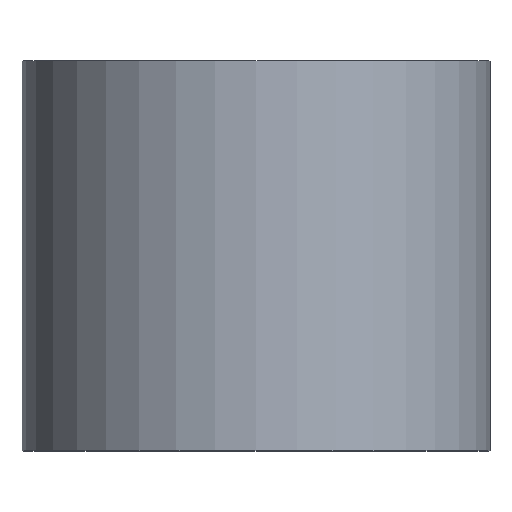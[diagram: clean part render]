
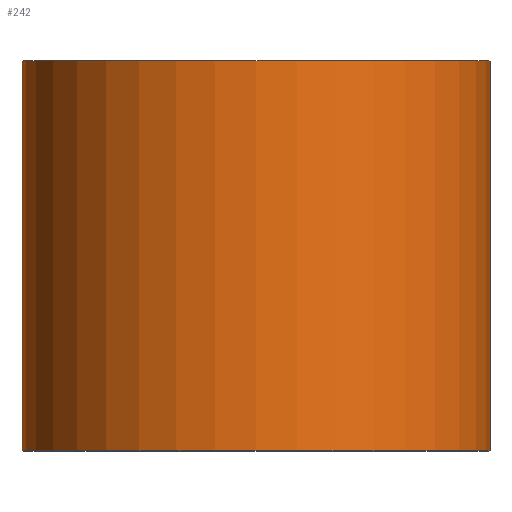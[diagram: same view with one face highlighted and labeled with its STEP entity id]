
A CAD part, top view. The second image highlights one B-rep face of the part: STEP entity #242.
In plain terms, the highlighted cylindrical face has radius 6 mm (diameter 12 mm), a partial arc.
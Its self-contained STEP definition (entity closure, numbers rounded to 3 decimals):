
#6 = EDGE_CURVE ( 'NONE', #262, #274, #54, .T. ) ;
#23 = DIRECTION ( 'NONE',  ( 0., 1., 0. ) ) ;
#40 = AXIS2_PLACEMENT_3D ( 'NONE', #100, #23, #57 ) ;
#49 = DIRECTION ( 'NONE',  ( -1., 0., 0. ) ) ;
#51 = CARTESIAN_POINT ( 'NONE',  ( 6., 0., 0. ) ) ;
#54 = LINE ( 'NONE', #228, #170 ) ;
#57 = DIRECTION ( 'NONE',  ( -1., 0., 0. ) ) ;
#69 = CIRCLE ( 'NONE', #290, 6. ) ;
#74 = DIRECTION ( 'NONE',  ( 0., 1., 0. ) ) ;
#82 = VERTEX_POINT ( 'NONE', #92 ) ;
#85 = CYLINDRICAL_SURFACE ( 'NONE', #40, 6. ) ;
#90 = EDGE_CURVE ( 'NONE', #281, #82, #248, .T. ) ;
#92 = CARTESIAN_POINT ( 'NONE',  ( 6., 10., 0. ) ) ;
#100 = CARTESIAN_POINT ( 'NONE',  ( 0., 0., 0. ) ) ;
#103 = ORIENTED_EDGE ( 'NONE', *, *, #288, .F. ) ;
#115 = ORIENTED_EDGE ( 'NONE', *, *, #6, .F. ) ;
#116 = VECTOR ( 'NONE', #268, 1000. ) ;
#133 = CARTESIAN_POINT ( 'NONE',  ( 0., 10., 0. ) ) ;
#147 = CARTESIAN_POINT ( 'NONE',  ( -6., 10., 0. ) ) ;
#150 = DIRECTION ( 'NONE',  ( -1., 0., 0. ) ) ;
#170 = VECTOR ( 'NONE', #74, 1000. ) ;
#188 = CARTESIAN_POINT ( 'NONE',  ( 0., 0., 0. ) ) ;
#213 = CIRCLE ( 'NONE', #246, 6. ) ;
#222 = EDGE_LOOP ( 'NONE', ( #243, #247, #103, #115 ) ) ;
#228 = CARTESIAN_POINT ( 'NONE',  ( -6., 0., 0. ) ) ;
#230 = FACE_OUTER_BOUND ( 'NONE', #222, .T. ) ;
#242 = ADVANCED_FACE ( 'NONE', ( #230 ), #85, .T. ) ;
#243 = ORIENTED_EDGE ( 'NONE', *, *, #261, .T. ) ;
#246 = AXIS2_PLACEMENT_3D ( 'NONE', #188, #253, #49 ) ;
#247 = ORIENTED_EDGE ( 'NONE', *, *, #90, .T. ) ;
#248 = LINE ( 'NONE', #298, #116 ) ;
#252 = CARTESIAN_POINT ( 'NONE',  ( -6., 0., 0. ) ) ;
#253 = DIRECTION ( 'NONE',  ( 0., 1., 0. ) ) ;
#261 = EDGE_CURVE ( 'NONE', #262, #281, #213, .T. ) ;
#262 = VERTEX_POINT ( 'NONE', #252 ) ;
#268 = DIRECTION ( 'NONE',  ( 0., 1., 0. ) ) ;
#272 = DIRECTION ( 'NONE',  ( 0., 1., 0. ) ) ;
#274 = VERTEX_POINT ( 'NONE', #147 ) ;
#281 = VERTEX_POINT ( 'NONE', #51 ) ;
#288 = EDGE_CURVE ( 'NONE', #274, #82, #69, .T. ) ;
#290 = AXIS2_PLACEMENT_3D ( 'NONE', #133, #272, #150 ) ;
#298 = CARTESIAN_POINT ( 'NONE',  ( 6., 0., 0. ) ) ;
